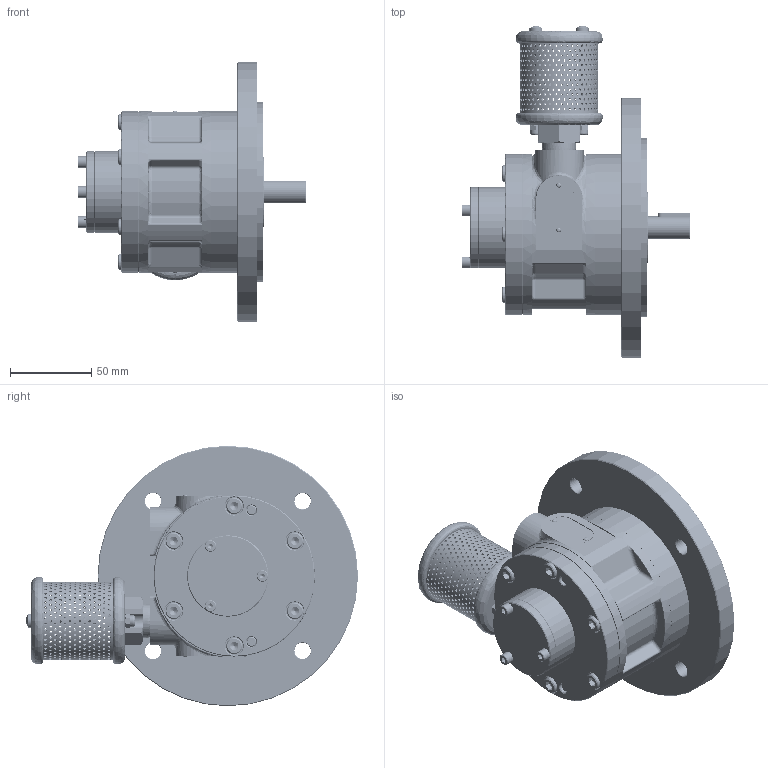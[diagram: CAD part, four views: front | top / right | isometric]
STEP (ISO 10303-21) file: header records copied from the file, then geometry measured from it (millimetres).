
FILE_DESCRIPTION (( 'STEP AP214' ), '1' );
FILE_NAME ('4VMD-IEC (Alu. End Plates)_23-04-26.STEP', '2026-04-23T10:59:54', ( '' ), ( '' ), 'SwSTEP 2.0', 'SolidWorks 2017', '' );
FILE_SCHEMA (( 'AUTOMOTIVE_DESIGN' ));
Length unit declared in the file: millimetre
Products named in the file (2): 4VMD-IEC (Alu. End Plates)_23-04-26
Bounding box: 140.35 x 203.95 x 160 mm (x, y, z)
Volume: 516114.7 mm3; surface area: 215104 mm2
Topology: 68 solids, 68 shells, 4489 faces, 12153 edges, 7723 vertices
Faces by surface type: cylinder 2510, cone 1026, plane 708, bspline 245
Entity records: 202004 total; most frequent: CARTESIAN_POINT 79907, ORIENTED_EDGE 24042, DIRECTION 20187, EDGE_CURVE 12021, AXIS2_PLACEMENT_3D 7878, VERTEX_POINT 7719, EDGE_LOOP 6158, FACE_OUTER_BOUND 4489
